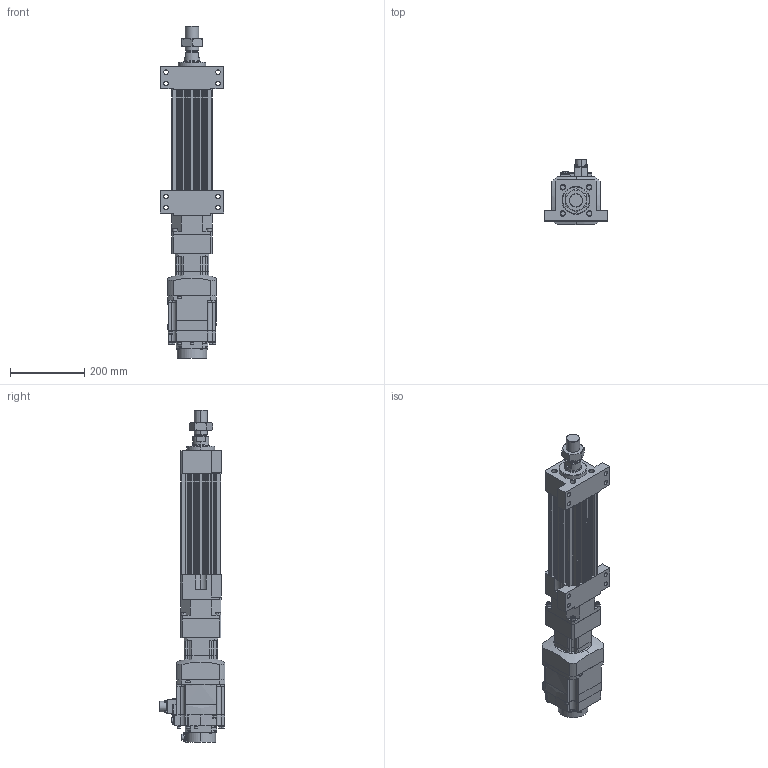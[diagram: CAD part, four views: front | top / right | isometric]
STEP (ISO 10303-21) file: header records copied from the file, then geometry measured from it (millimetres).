
FILE_DESCRIPTION (( 'STEP AP203' ), '1' );
FILE_NAME ('HES110NS(HS)-S100-W010G00-M-FFB.STEP', '2026-06-10T05:55:40', ( 'tms' ), ( '' ), 'SwSTEP 2.0', 'SolidWorks 2013', '' );
FILE_SCHEMA (( 'CONFIG_CONTROL_DESIGN' ));
Length unit declared in the file: millimetre
Products named in the file (8): HG-SR102B; HES110-M-ROD-100; HES110NS(HS)-S100-W010G00-M-FFB; M36X1.5P; HES110-FFB-100; HES110-S-G90; AB0902; AB0901
Assembly tree (7 placements, depth 2):
  HES110NS(HS)-S100-W010G00-M-FFB
    HES110-FFB-100
    HES110-M-ROD-100
    M36X1.5P
    HES110-S-G90
    AB0901
    AB0902
    HG-SR102B
Bounding box: 170 x 177.49 x 893 mm (x, y, z)
Volume: 6220478.1 mm3; surface area: 753356 mm2
Topology: 5 solids, 12 shells, 1194 faces, 3036 edges, 1981 vertices
Faces by surface type: plane 560, cylinder 552, cone 68, bspline 10, torus 4
Entity records: 38266 total; most frequent: CARTESIAN_POINT 7539, DIRECTION 6557, ORIENTED_EDGE 6044, EDGE_CURVE 3032, AXIS2_PLACEMENT_3D 2423, VERTEX_POINT 1981, VECTOR 1711, LINE 1711
